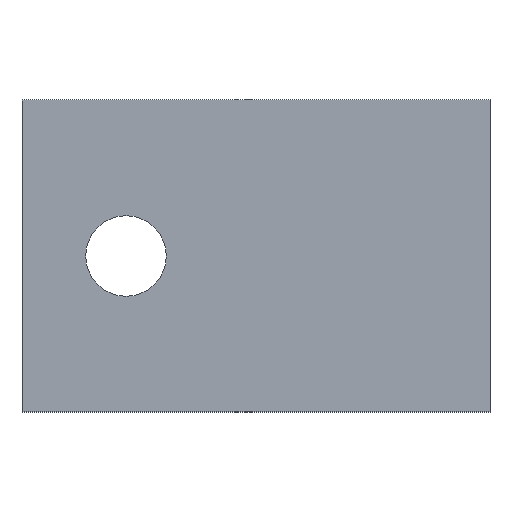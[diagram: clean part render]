
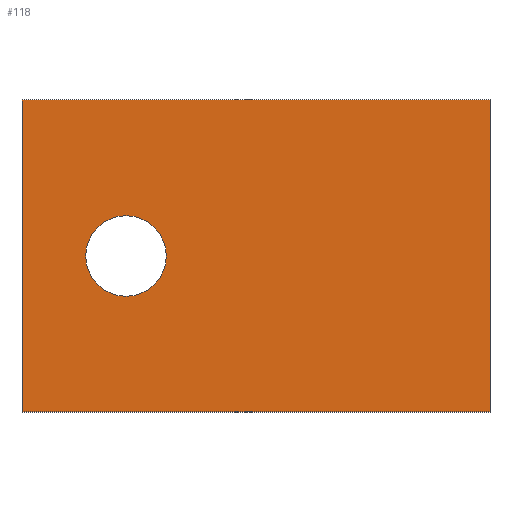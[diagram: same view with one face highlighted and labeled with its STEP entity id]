
A CAD part, top view. The second image highlights one B-rep face of the part: STEP entity #118.
In plain terms, the highlighted planar face has unit normal (0, 0, 1).
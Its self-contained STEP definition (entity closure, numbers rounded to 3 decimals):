
#15 = EDGE_CURVE ( 'NONE', #82, #257, #140, .T. ) ;
#21 = VERTEX_POINT ( 'NONE', #147 ) ;
#29 = VERTEX_POINT ( 'NONE', #174 ) ;
#30 = ORIENTED_EDGE ( 'NONE', *, *, #60, .T. ) ;
#34 = VERTEX_POINT ( 'NONE', #179 ) ;
#39 = ORIENTED_EDGE ( 'NONE', *, *, #65, .T. ) ;
#40 = EDGE_LOOP ( 'NONE', ( #52, #30, #39, #43 ) ) ;
#42 = EDGE_LOOP ( 'NONE', ( #58, #63 ) ) ;
#43 = ORIENTED_EDGE ( 'NONE', *, *, #135, .T. ) ;
#47 = EDGE_CURVE ( 'NONE', #257, #82, #207, .T. ) ;
#51 = VERTEX_POINT ( 'NONE', #218 ) ;
#52 = ORIENTED_EDGE ( 'NONE', *, *, #170, .T. ) ;
#58 = ORIENTED_EDGE ( 'NONE', *, *, #47, .F. ) ;
#60 = EDGE_CURVE ( 'NONE', #21, #29, #67, .T. ) ;
#63 = ORIENTED_EDGE ( 'NONE', *, *, #15, .F. ) ;
#65 = EDGE_CURVE ( 'NONE', #29, #34, #85, .T. ) ;
#67 = LINE ( 'NONE', #68, #69 ) ;
#68 = CARTESIAN_POINT ( 'NONE',  ( 0., 0., 0.05 ) ) ;
#69 = VECTOR ( 'NONE', #70, 1000. ) ;
#70 = DIRECTION ( 'NONE',  ( 1., 0., 0. ) ) ;
#82 = VERTEX_POINT ( 'NONE', #106 ) ;
#85 = LINE ( 'NONE', #86, #87 ) ;
#86 = CARTESIAN_POINT ( 'NONE',  ( 18., 0., 0.05 ) ) ;
#87 = VECTOR ( 'NONE', #88, 1000. ) ;
#88 = DIRECTION ( 'NONE',  ( 0., 1., 0. ) ) ;
#106 = CARTESIAN_POINT ( 'NONE',  ( 5.55, 6., 0.05 ) ) ;
#107 = FACE_OUTER_BOUND ( 'NONE', #40, .T. ) ;
#108 = FACE_BOUND ( 'NONE', #42, .T. ) ;
#109 = PLANE ( 'NONE',  #110 ) ;
#110 = AXIS2_PLACEMENT_3D ( 'NONE', #111, #112, #113 ) ;
#111 = CARTESIAN_POINT ( 'NONE',  ( 0., 12., 0.05 ) ) ;
#112 = DIRECTION ( 'NONE',  ( 0., 0., -1. ) ) ;
#113 = DIRECTION ( 'NONE',  ( -1., 0., 0. ) ) ;
#114 = LINE ( 'NONE', #115, #119 ) ;
#115 = CARTESIAN_POINT ( 'NONE',  ( 0., 12., 0.05 ) ) ;
#118 = ADVANCED_FACE ( 'NONE', ( #107, #108 ), #109, .F. ) ;
#119 = VECTOR ( 'NONE', #120, 1000. ) ;
#120 = DIRECTION ( 'NONE',  ( -1., 0., 0. ) ) ;
#127 = LINE ( 'NONE', #128, #129 ) ;
#128 = CARTESIAN_POINT ( 'NONE',  ( 0., 0., 0.05 ) ) ;
#129 = VECTOR ( 'NONE', #130, 1000. ) ;
#130 = DIRECTION ( 'NONE',  ( 0., -1., 0. ) ) ;
#135 = EDGE_CURVE ( 'NONE', #34, #51, #114, .T. ) ;
#140 = CIRCLE ( 'NONE', #141, 1.55 ) ;
#141 = AXIS2_PLACEMENT_3D ( 'NONE', #142, #143, #144 ) ;
#142 = CARTESIAN_POINT ( 'NONE',  ( 4., 6., 0.05 ) ) ;
#143 = DIRECTION ( 'NONE',  ( 0., 0., 1. ) ) ;
#144 = DIRECTION ( 'NONE',  ( 1., 0., 0. ) ) ;
#146 = CARTESIAN_POINT ( 'NONE',  ( 2.45, 6., 0.05 ) ) ;
#147 = CARTESIAN_POINT ( 'NONE',  ( 0., 0., 0.05 ) ) ;
#170 = EDGE_CURVE ( 'NONE', #51, #21, #127, .T. ) ;
#174 = CARTESIAN_POINT ( 'NONE',  ( 18., 0., 0.05 ) ) ;
#179 = CARTESIAN_POINT ( 'NONE',  ( 18., 12., 0.05 ) ) ;
#207 = CIRCLE ( 'NONE', #208, 1.55 ) ;
#208 = AXIS2_PLACEMENT_3D ( 'NONE', #209, #210, #211 ) ;
#209 = CARTESIAN_POINT ( 'NONE',  ( 4., 6., 0.05 ) ) ;
#210 = DIRECTION ( 'NONE',  ( 0., 0., 1. ) ) ;
#211 = DIRECTION ( 'NONE',  ( 1., 0., 0. ) ) ;
#218 = CARTESIAN_POINT ( 'NONE',  ( 0., 12., 0.05 ) ) ;
#257 = VERTEX_POINT ( 'NONE', #146 ) ;
